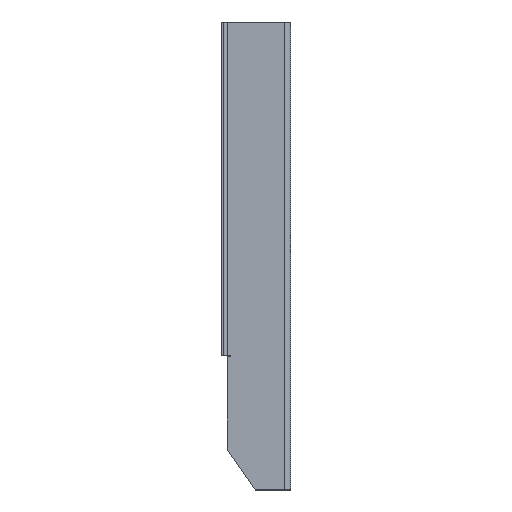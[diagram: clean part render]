
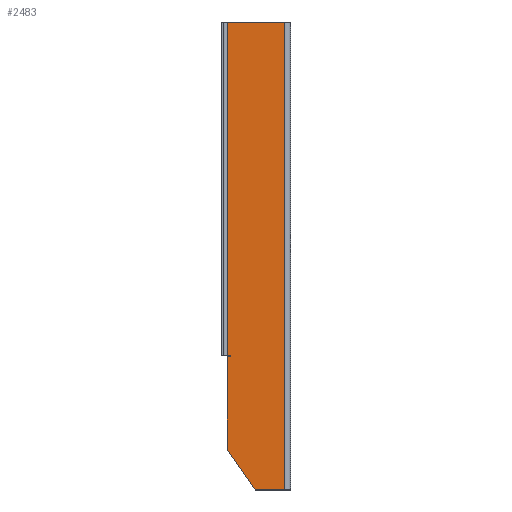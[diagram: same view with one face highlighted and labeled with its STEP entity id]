
A CAD part, left-side view. The second image highlights one B-rep face of the part: STEP entity #2483.
In plain terms, the highlighted planar face has unit normal (-1, 0, 0).
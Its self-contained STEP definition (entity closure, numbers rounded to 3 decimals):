
#80 = CARTESIAN_POINT ( 'NONE',  ( -60.5, 127.1, -320.545 ) ) ;
#105 = LINE ( 'NONE', #1589, #1103 ) ;
#181 = ORIENTED_EDGE ( 'NONE', *, *, #264, .F. ) ;
#218 = LINE ( 'NONE', #531, #2023 ) ;
#225 = VECTOR ( 'NONE', #2002, 1000. ) ;
#239 = ORIENTED_EDGE ( 'NONE', *, *, #2665, .F. ) ;
#264 = EDGE_CURVE ( 'NONE', #1931, #3580, #2646, .T. ) ;
#335 = DIRECTION ( 'NONE',  ( 1., 0., 0. ) ) ;
#432 = CARTESIAN_POINT ( 'NONE',  ( -60.5, 130.1, -450. ) ) ;
#465 = CARTESIAN_POINT ( 'NONE',  ( -60.5, 130.1, -320.545 ) ) ;
#504 = ORIENTED_EDGE ( 'NONE', *, *, #3746, .T. ) ;
#531 = CARTESIAN_POINT ( 'NONE',  ( -60.5, 127.1, -320.545 ) ) ;
#614 = ORIENTED_EDGE ( 'NONE', *, *, #2759, .F. ) ;
#695 = VERTEX_POINT ( 'NONE', #2944 ) ;
#830 = CARTESIAN_POINT ( 'NONE',  ( -60.5, 280.139, -192.534 ) ) ;
#888 = CARTESIAN_POINT ( 'NONE',  ( -60.5, 130.1, -321.545 ) ) ;
#969 = VERTEX_POINT ( 'NONE', #1608 ) ;
#1002 = CARTESIAN_POINT ( 'NONE',  ( -60.5, 130.1, -321.545 ) ) ;
#1103 = VECTOR ( 'NONE', #1329, 1000. ) ;
#1106 = VECTOR ( 'NONE', #1644, 1000. ) ;
#1112 = CARTESIAN_POINT ( 'NONE',  ( -60.5, 130.1, -450. ) ) ;
#1145 = DIRECTION ( 'NONE',  ( 0., 1., 0. ) ) ;
#1169 = CARTESIAN_POINT ( 'NONE',  ( -60.5, 0., 0. ) ) ;
#1224 = VECTOR ( 'NONE', #3418, 1000. ) ;
#1329 = DIRECTION ( 'NONE',  ( 0., 1., 0. ) ) ;
#1384 = DIRECTION ( 'NONE',  ( 0., 0., 1. ) ) ;
#1388 = LINE ( 'NONE', #1734, #3677 ) ;
#1398 = CARTESIAN_POINT ( 'NONE',  ( -60.5, 127.1, -321.545 ) ) ;
#1521 = VERTEX_POINT ( 'NONE', #1398 ) ;
#1589 = CARTESIAN_POINT ( 'NONE',  ( -60.5, 130.1, -320.545 ) ) ;
#1608 = CARTESIAN_POINT ( 'NONE',  ( -60.5, 74.4, 0. ) ) ;
#1625 = LINE ( 'NONE', #432, #1106 ) ;
#1644 = DIRECTION ( 'NONE',  ( 0., 0., 1. ) ) ;
#1648 = CARTESIAN_POINT ( 'NONE',  ( -60.5, 74.4, -450. ) ) ;
#1734 = CARTESIAN_POINT ( 'NONE',  ( -60.5, 135.6, 0. ) ) ;
#1809 = EDGE_CURVE ( 'NONE', #969, #3914, #2774, .T. ) ;
#1828 = ORIENTED_EDGE ( 'NONE', *, *, #3527, .F. ) ;
#1881 = VECTOR ( 'NONE', #3448, 1000. ) ;
#1931 = VERTEX_POINT ( 'NONE', #465 ) ;
#1991 = ORIENTED_EDGE ( 'NONE', *, *, #3650, .T. ) ;
#2002 = DIRECTION ( 'NONE',  ( 0., -0.566, -0.824 ) ) ;
#2023 = VECTOR ( 'NONE', #1384, 1000. ) ;
#2042 = LINE ( 'NONE', #3263, #2333 ) ;
#2100 = VERTEX_POINT ( 'NONE', #3670 ) ;
#2173 = VERTEX_POINT ( 'NONE', #80 ) ;
#2190 = CARTESIAN_POINT ( 'NONE',  ( -60.5, 74.4, 0. ) ) ;
#2232 = ORIENTED_EDGE ( 'NONE', *, *, #1809, .F. ) ;
#2333 = VECTOR ( 'NONE', #2786, 1000. ) ;
#2349 = DIRECTION ( 'NONE',  ( 0., 0., 1. ) ) ;
#2383 = VECTOR ( 'NONE', #2349, 1000. ) ;
#2461 = AXIS2_PLACEMENT_3D ( 'NONE', #1169, #335, #3571 ) ;
#2471 = ORIENTED_EDGE ( 'NONE', *, *, #3504, .F. ) ;
#2483 = ADVANCED_FACE ( 'NONE', ( #3922 ), #3078, .F. ) ;
#2547 = ORIENTED_EDGE ( 'NONE', *, *, #3645, .T. ) ;
#2646 = LINE ( 'NONE', #1112, #2383 ) ;
#2665 = EDGE_CURVE ( 'NONE', #1521, #2173, #218, .T. ) ;
#2753 = EDGE_LOOP ( 'NONE', ( #181, #1828, #239, #2471, #614, #1991, #504, #2232, #2547 ) ) ;
#2759 = EDGE_CURVE ( 'NONE', #2100, #3381, #1625, .T. ) ;
#2774 = LINE ( 'NONE', #2190, #1224 ) ;
#2786 = DIRECTION ( 'NONE',  ( 0., -1., 0. ) ) ;
#2944 = CARTESIAN_POINT ( 'NONE',  ( -60.5, 103.187, -450. ) ) ;
#3078 = PLANE ( 'NONE',  #2461 ) ;
#3263 = CARTESIAN_POINT ( 'NONE',  ( -60.5, 71.4, -450. ) ) ;
#3381 = VERTEX_POINT ( 'NONE', #888 ) ;
#3418 = DIRECTION ( 'NONE',  ( 0., 0., -1. ) ) ;
#3448 = DIRECTION ( 'NONE',  ( 0., -1., 0. ) ) ;
#3493 = LINE ( 'NONE', #1002, #1881 ) ;
#3504 = EDGE_CURVE ( 'NONE', #3381, #1521, #3493, .T. ) ;
#3527 = EDGE_CURVE ( 'NONE', #2173, #1931, #105, .T. ) ;
#3571 = DIRECTION ( 'NONE',  ( 0., 1., 0. ) ) ;
#3580 = VERTEX_POINT ( 'NONE', #3813 ) ;
#3645 = EDGE_CURVE ( 'NONE', #969, #3580, #1388, .T. ) ;
#3650 = EDGE_CURVE ( 'NONE', #2100, #695, #3866, .T. ) ;
#3670 = CARTESIAN_POINT ( 'NONE',  ( -60.5, 130.1, -410.842 ) ) ;
#3677 = VECTOR ( 'NONE', #1145, 1000. ) ;
#3746 = EDGE_CURVE ( 'NONE', #695, #3914, #2042, .T. ) ;
#3813 = CARTESIAN_POINT ( 'NONE',  ( -60.5, 130.1, 0. ) ) ;
#3866 = LINE ( 'NONE', #830, #225 ) ;
#3914 = VERTEX_POINT ( 'NONE', #1648 ) ;
#3922 = FACE_OUTER_BOUND ( 'NONE', #2753, .T. ) ;
